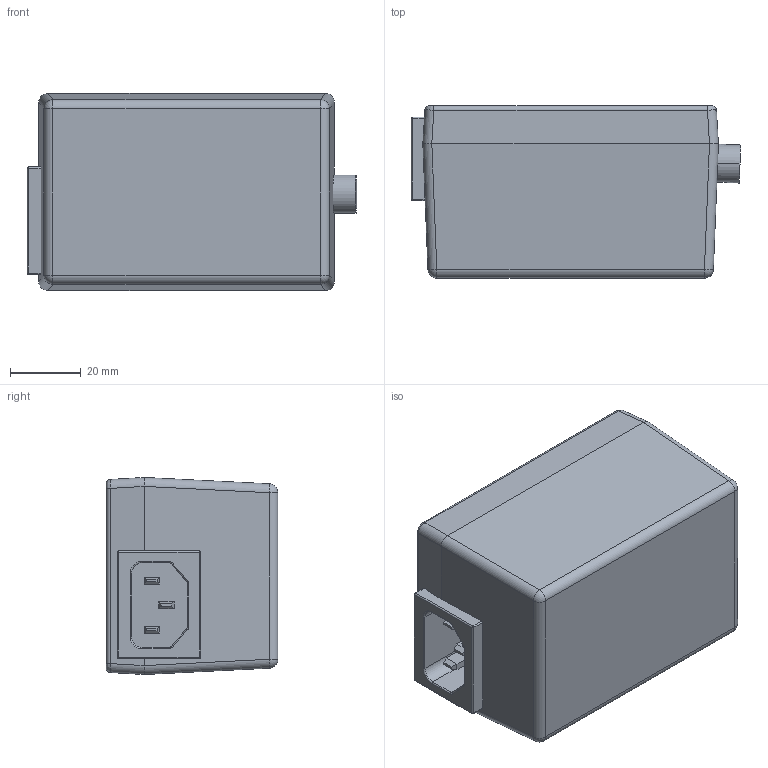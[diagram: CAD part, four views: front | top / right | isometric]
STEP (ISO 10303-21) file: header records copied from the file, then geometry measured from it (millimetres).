
FILE_DESCRIPTION((''),'2;1');
FILE_NAME('CU_POWER_SUPPLY_PS2','2007-08-17T',('jpearson'),(''),'PRO/ENGINEER BY PARAMETRIC TECHNOLOGY CORPORATION, 2006080','PRO/ENGINEER BY PARAMETRIC TECHNOLOGY CORPORATION, 2006080','');
FILE_SCHEMA(('CONFIG_CONTROL_DESIGN'));
Length unit declared in the file: inch
Products named in the file (1): CU_POWER_SUPPLY_PS2
Bounding box: 93.47 x 48.77 x 55.88 mm (x, y, z)
Volume: 215332.2 mm3; surface area: 23669.8 mm2
Topology: 1 solids, 1 shells, 106 faces, 235 edges, 135 vertices
Faces by surface type: plane 50, cylinder 38, sphere 8, torus 6, bspline 4
Entity records: 3092 total; most frequent: CARTESIAN_POINT 730, DIRECTION 490, ORIENTED_EDGE 470, EDGE_CURVE 235, AXIS2_PLACEMENT_3D 169, VECTOR 152, LINE 152, VERTEX_POINT 135
